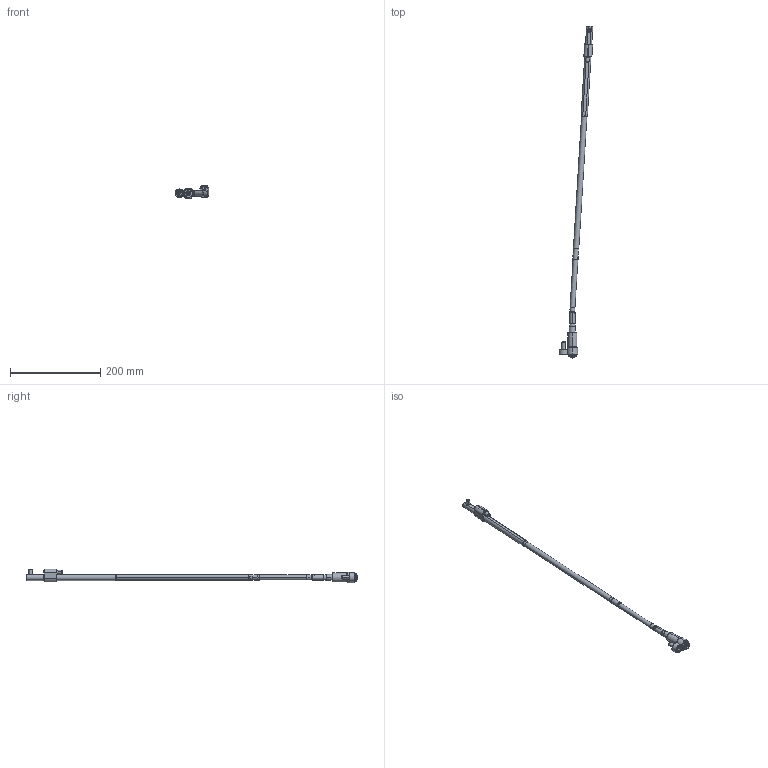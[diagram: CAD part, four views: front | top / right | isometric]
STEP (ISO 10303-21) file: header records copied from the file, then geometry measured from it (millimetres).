
FILE_DESCRIPTION (( 'STEP AP214' ), '1' );
FILE_NAME ('WL120100-EJE 3,5°.STEP', '2021-03-19T15:33:44', ( '' ), ( '' ), 'SwSTEP 2.0', 'SolidWorks 2019', '' );
FILE_SCHEMA (( 'AUTOMOTIVE_DESIGN' ));
Length unit declared in the file: millimetre
Products named in the file (17): 1DIN912645_DIN 912 M6 x 45 --- 45C; 3IMAN5X3-150_con sellador; 9DR2808-TOR; Web-WL12-F00.SLDPRT; Web-WL12-A1; 8WL12EJEP; WL120100-E; Web-WL12-A2; 1DIN912820_DIN 912 M8 x 20 --- 20C; Web-WL12-A3; WL120100-B; WL120100-B1; WL120100-D; Web-WL12-F01; WL120100-EJE 3,5°; Web-WL12-XX_ON-WL120100-3,5; Web-WL12-A8
Assembly tree (16 placements, depth 3):
  WL120100-EJE 3,5°
    Web-WL12-A8
    Web-WL12-XX_ON-WL120100-3,5
    Web-WL12-A3
    Web-WL12-A2
    Web-WL12-A1
    Web-WL12-F00.SLDPRT
      Web-WL12-F01
      1DIN912820_DIN 912 M8 x 20 --- 20C
      1DIN912645_DIN 912 M6 x 45 --- 45C
    WL120100-D
    8WL12EJEP
    WL120100-E
    9DR2808-TOR
    WL120100-B
      WL120100-B1
      3IMAN5X3-150_con sellador
Bounding box: 74.77 x 737.24 x 29.9 mm (x, y, z)
Volume: 113341.9 mm3; surface area: 49842.4 mm2
Topology: 15 solids, 15 shells, 432 faces, 906 edges, 525 vertices
Faces by surface type: plane 139, cylinder 123, cone 120, torus 50
Entity records: 13661 total; most frequent: DIRECTION 2240, CARTESIAN_POINT 2104, ORIENTED_EDGE 1788, AXIS2_PLACEMENT_3D 929, EDGE_CURVE 894, VERTEX_POINT 525, EDGE_LOOP 477, CIRCLE 476
